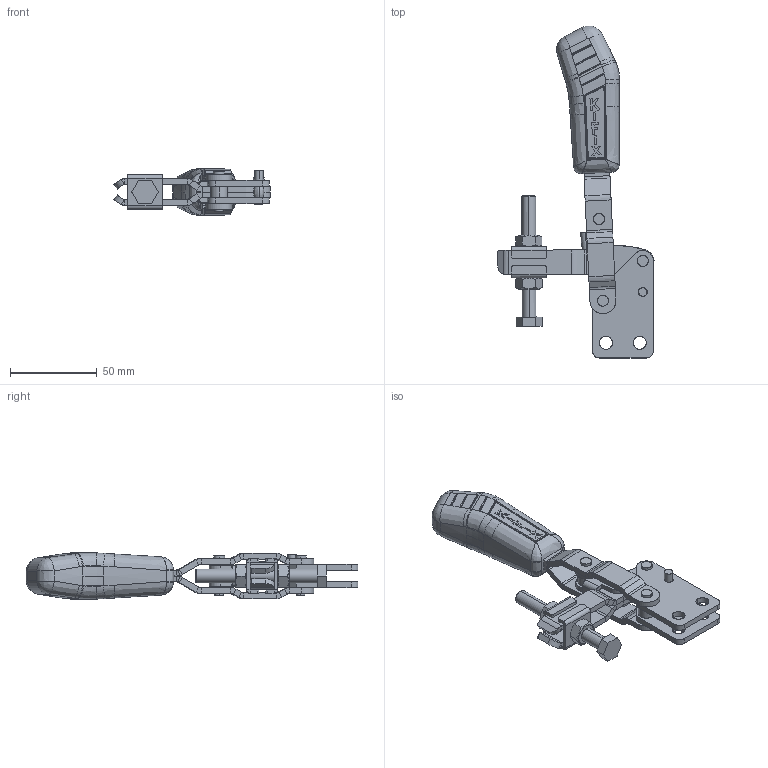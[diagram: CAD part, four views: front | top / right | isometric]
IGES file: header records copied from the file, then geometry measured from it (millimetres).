
Start section: SolidWorks IGES file using analytic representation for surfaces
Global section: file name: C:\Projetos\Grampos\KF-016\KF-016 RB\KF-016 RB.IGS; native system: SolidWorks 2013; preprocessor: SolidWorks 2013; author: Ricardo; date: 140728.131730; units: millimetre
Bounding box: 90.11 x 191.43 x 27.02 mm (x, y, z)
Surface area: 47844.6 mm2 (no closed solid volume)
Topology: 0 solids, 0 shells, 788 faces, 8273 edges, 8260 vertices
Faces by surface type: bspline 501, revolution 287
